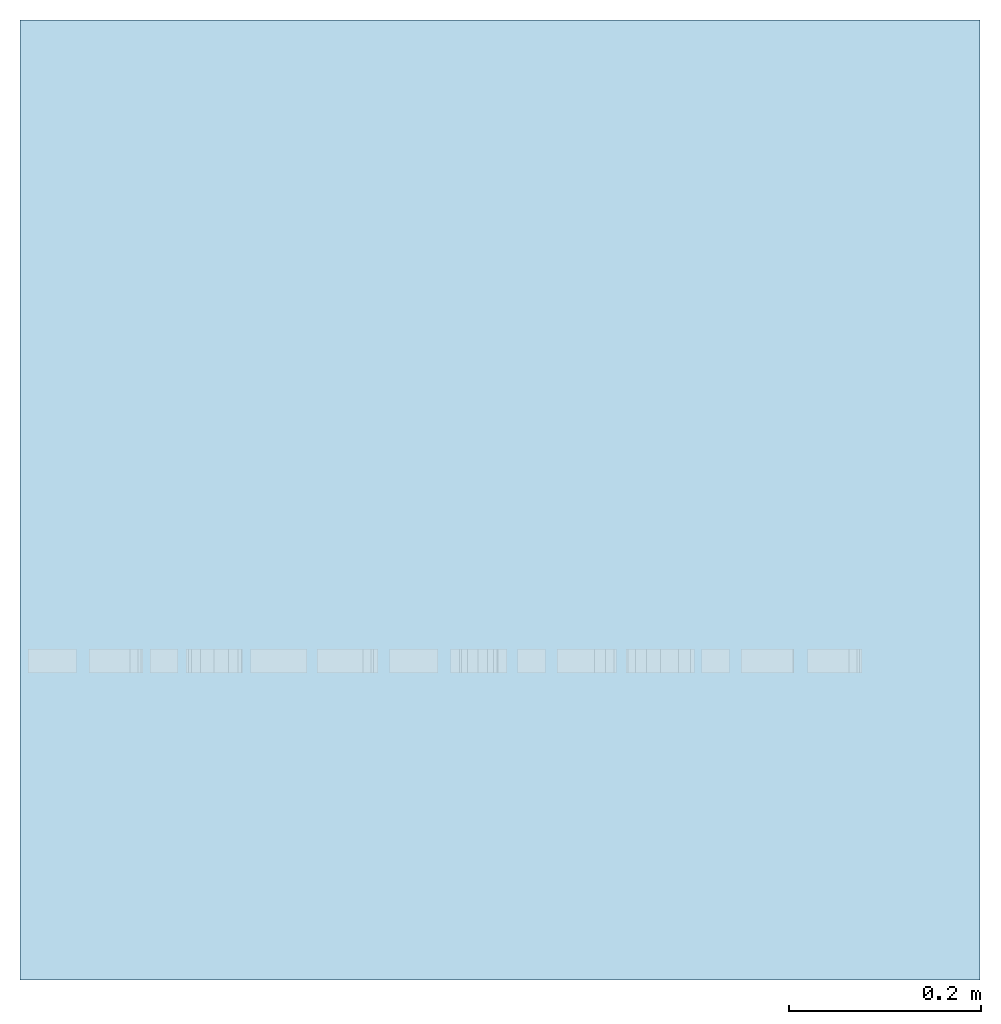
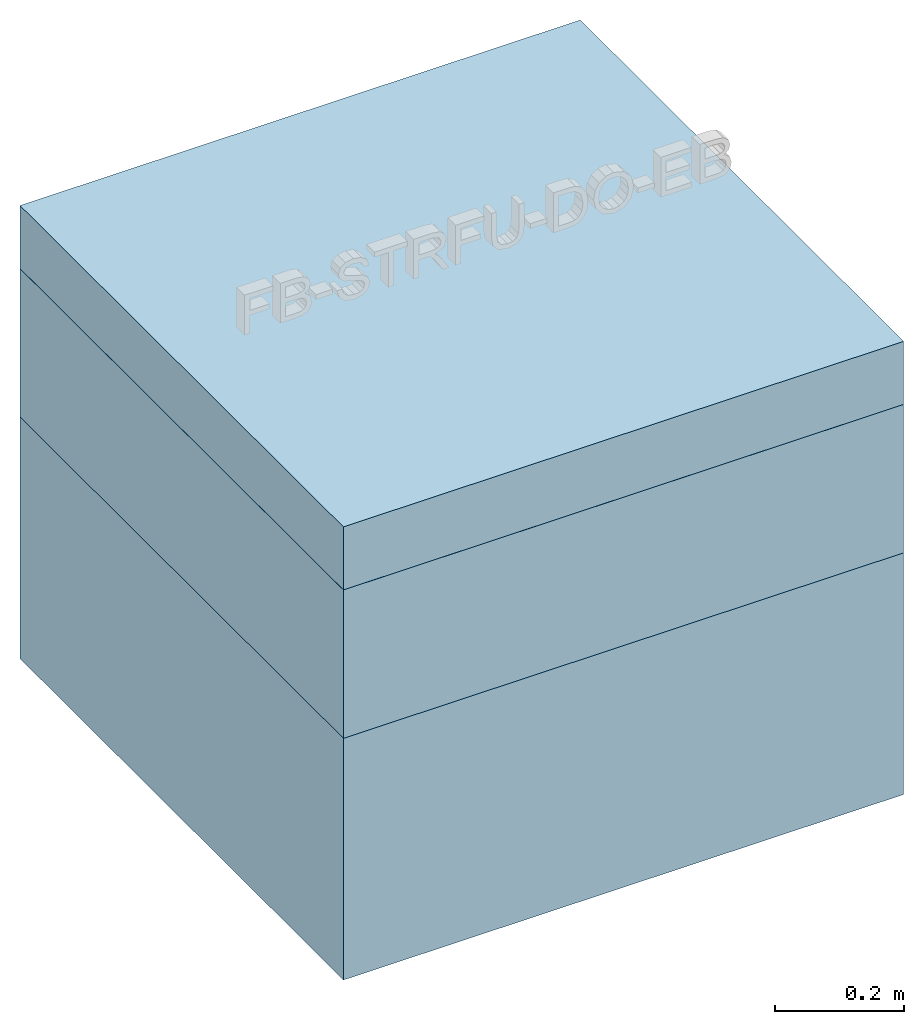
# Not in any storey, part 1 of 2: 3 slabs, 1 element without a shape of its own.
"""IFC4 model written with IfcOpenShell, lengths in metres."""

from ifc_helpers import new_model, entity, si_unit, converted_unit, derived_unit, direction, frame, origin, place, context, subcontext, project, spatial, indexed_curve, outline, extrude, material, constituent, constituent_set, type_object, element, aggregate, save


model = new_model("IFC4")

# Units and contexts
model_context = context("Model", 3, precision=1e-05, world=origin(), true_north=direction((6.123031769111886e-17, 1.0)))
body_context = subcontext(model_context, "Body", "Model", "MODEL_VIEW")
ifc_project = project(units=[si_unit("LENGTHUNIT", "METRE"), si_unit("AREAUNIT", "SQUARE_METRE"), si_unit("VOLUMEUNIT", "CUBIC_METRE"), converted_unit("PLANEANGLEUNIT", "DEGREE", entity("IfcRatioMeasure", 0.017453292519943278), si_unit("PLANEANGLEUNIT", "RADIAN"), dimensions=[0, 0, 0, 0, 0, 0, 0]), si_unit("MASSUNIT", "GRAM", prefix="KILO"), derived_unit("MASSDENSITYUNIT", [(si_unit("MASSUNIT", "GRAM", prefix="KILO"), 1), (si_unit("LENGTHUNIT", "METRE"), -3)]), derived_unit("IONCONCENTRATIONUNIT", [(si_unit("MASSUNIT", "GRAM", prefix="KILO"), 1), (si_unit("LENGTHUNIT", "METRE"), -3)]), derived_unit("MOMENTOFINERTIAUNIT", [(si_unit("LENGTHUNIT", "METRE"), 4)]), si_unit("TIMEUNIT", "SECOND"), si_unit("FREQUENCYUNIT", "HERTZ"), si_unit("THERMODYNAMICTEMPERATUREUNIT", "DEGREE_CELSIUS"), derived_unit("THERMALTRANSMITTANCEUNIT", [(si_unit("MASSUNIT", "GRAM", prefix="KILO"), 1), (si_unit("THERMODYNAMICTEMPERATUREUNIT", "KELVIN"), -1), (si_unit("TIMEUNIT", "SECOND"), -3)]), derived_unit("THERMALCONDUCTANCEUNIT", [(si_unit("MASSUNIT", "GRAM", prefix="KILO"), 1), (si_unit("THERMODYNAMICTEMPERATUREUNIT", "KELVIN"), -1), (si_unit("TIMEUNIT", "SECOND"), -3), (si_unit("LENGTHUNIT", "METRE"), 1)]), derived_unit("VOLUMETRICFLOWRATEUNIT", [(si_unit("LENGTHUNIT", "METRE"), 3), (si_unit("TIMEUNIT", "SECOND"), -1)]), derived_unit("MASSFLOWRATEUNIT", [(si_unit("MASSUNIT", "GRAM", prefix="KILO"), 1), (si_unit("TIMEUNIT", "SECOND"), -1)]), derived_unit("ROTATIONALFREQUENCYUNIT", [(si_unit("TIMEUNIT", "SECOND"), -1)]), si_unit("ELECTRICCURRENTUNIT", "AMPERE"), si_unit("ELECTRICVOLTAGEUNIT", "VOLT"), si_unit("POWERUNIT", "WATT"), si_unit("FORCEUNIT", "NEWTON", prefix="KILO"), si_unit("ILLUMINANCEUNIT", "LUX"), si_unit("LUMINOUSFLUXUNIT", "LUMEN"), si_unit("LUMINOUSINTENSITYUNIT", "CANDELA"), derived_unit("USERDEFINED", [(si_unit("MASSUNIT", "GRAM", prefix="KILO"), -1), (si_unit("LENGTHUNIT", "METRE"), -2), (si_unit("TIMEUNIT", "SECOND"), 3), (si_unit("LUMINOUSFLUXUNIT", "LUMEN"), 1)]), derived_unit("USERDEFINED", [(si_unit("MASSUNIT", "GRAM", prefix="KILO"), 1), (si_unit("TIMEUNIT", "SECOND"), -3), (si_unit("LENGTHUNIT", "METRE"), 3), (si_unit("ELECTRICCURRENTUNIT", "AMPERE"), -2)]), derived_unit("SOUNDPOWERUNIT", [(si_unit("MASSUNIT", "GRAM", prefix="KILO"), 1), (si_unit("TIMEUNIT", "SECOND"), -3), (si_unit("LENGTHUNIT", "METRE"), 2)]), derived_unit("SOUNDPRESSUREUNIT", [(si_unit("MASSUNIT", "GRAM", prefix="KILO"), 1), (si_unit("LENGTHUNIT", "METRE"), -1), (si_unit("TIMEUNIT", "SECOND"), -2)]), derived_unit("LINEARVELOCITYUNIT", [(si_unit("LENGTHUNIT", "METRE"), 1), (si_unit("TIMEUNIT", "SECOND"), -1)]), si_unit("PRESSUREUNIT", "PASCAL"), derived_unit("USERDEFINED", [(si_unit("MASSUNIT", "GRAM", prefix="KILO"), 1), (si_unit("LENGTHUNIT", "METRE"), -2), (si_unit("TIMEUNIT", "SECOND"), -2)]), derived_unit("LINEARFORCEUNIT", [(si_unit("MASSUNIT", "GRAM", prefix="KILO"), 1), (si_unit("TIMEUNIT", "SECOND"), -2)]), derived_unit("PLANARFORCEUNIT", [(si_unit("MASSUNIT", "GRAM", prefix="KILO"), 1), (si_unit("LENGTHUNIT", "METRE"), -1), (si_unit("TIMEUNIT", "SECOND"), -2)]), derived_unit("SPECIFICHEATCAPACITYUNIT", [(si_unit("THERMODYNAMICTEMPERATUREUNIT", "KELVIN"), -1), (si_unit("LENGTHUNIT", "METRE"), 2), (si_unit("TIMEUNIT", "SECOND"), -2)]), derived_unit("HEATINGVALUEUNIT", [(si_unit("LENGTHUNIT", "METRE"), 2), (si_unit("TIMEUNIT", "SECOND"), -2)]), derived_unit("VAPORPERMEABILITYUNIT", [(si_unit("LENGTHUNIT", "METRE"), -1), (si_unit("TIMEUNIT", "SECOND"), 1)]), derived_unit("DYNAMICVISCOSITYUNIT", [(si_unit("MASSUNIT", "GRAM", prefix="KILO"), 1), (si_unit("TIMEUNIT", "SECOND"), -1), (si_unit("LENGTHUNIT", "METRE"), -1)]), derived_unit("THERMALEXPANSIONCOEFFICIENTUNIT", [(si_unit("THERMODYNAMICTEMPERATUREUNIT", "KELVIN"), -1)]), derived_unit("MODULUSOFELASTICITYUNIT", [(si_unit("MASSUNIT", "GRAM", prefix="KILO"), 1), (si_unit("LENGTHUNIT", "METRE"), -1), (si_unit("TIMEUNIT", "SECOND"), -2)]), derived_unit("ISOTHERMALMOISTURECAPACITYUNIT", [(si_unit("LENGTHUNIT", "METRE"), 3), (si_unit("MASSUNIT", "GRAM", prefix="KILO"), -1)]), derived_unit("MOISTUREDIFFUSIVITYUNIT", [(si_unit("TIMEUNIT", "SECOND"), -1), (si_unit("LENGTHUNIT", "METRE"), 2)])], contexts=[model_context])

# Site
site_placement = place(None, origin())
site = spatial("IfcSite", under=ifc_project, at=site_placement, Name="Default", CompositionType="ELEMENT")

# Assembly, slabs
ifc_material_1 = material(Name="fbim_18108010_AT_015_Parkettboden")
ifc_constituent_1 = constituent(ifc_material_1, Name="fbim_18108010_AT_015_Parkettboden")
ifc_material_2 = material(Name="fbim_AT_Perlitdaemmschuettung")
ifc_constituent_2 = constituent(ifc_material_2, Name="fbim_AT_Perlitdaemmschuettung")
ifc_material_3 = material(Name="fbim_14104055_AT_040_HF-Trittschalldaemmplatte")
ifc_constituent_3 = constituent(ifc_material_3, Name="fbim_14104055_AT_040_HF-Trittschalldaemmplatte")
ifc_material_4 = material(Name="fbim_12400515_AT_025_Vollholz_Bretter_Fichte")
ifc_constituent_4 = constituent(ifc_material_4, Name="fbim_12400515_AT_025_Vollholz_Bretter_Fichte")
ifc_constituent_set_1 = constituent_set(constituents=[ifc_constituent_1, ifc_constituent_2, ifc_constituent_3, ifc_constituent_4], Name="Geschossdecke:fbimSg_Slab_sb_CNR_vis_at_NTR_natuREbuilt_FBo_GK3_o_15cm")
assembly_placement = place(site_placement, origin())
assembly = element("IfcElementAssembly", 1, at=assembly_placement, inside=site, material=ifc_constituent_set_1, Name="Geschossdecken Baugruppe:fbimSg_Footing_bc_WOD_vis_at_NTR_natuREbuilt_FB-STRFU-DO-EB_GK3_86cm", ObjectType="Geschossdecken Baugruppe:fbimSg_Footing_bc_WOD_vis_at_NTR_natuREbuilt_FB-STRFU-DO-EB_GK3_86cm", AssemblyPlace="NOTDEFINED", PredefinedType="USERDEFINED")
slab_type_1 = type_object("IfcSlabType", Name="Geschossdecke:fbimSg_Slab_sb_CNR_vis_at_NTR_natuREbuilt_FBo_GK3_o_15cm", PredefinedType="FLOOR", material=ifc_constituent_set_1)
slab_1_placement = place(assembly_placement, origin())
slab_1 = element("IfcSlab", 2, at=slab_1_placement, type_object=slab_type_1, Name="Geschossdecke:fbimSg_Slab_sb_CNR_vis_at_NTR_natuREbuilt_FBo_GK3_o_15cm", ObjectType="Geschossdecke:fbimSg_Slab_sb_CNR_vis_at_NTR_natuREbuilt_FBo_GK3_o_15cm", PredefinedType="FLOOR", context=body_context, shape_type="SweptSolid", body=[
    extrude(outline(indexed_curve([(-0.4999999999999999, -0.49999999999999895), (0.5, -0.49999999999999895), (0.5, 0.49999999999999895), (-0.5, 0.49999999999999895), (-0.4999999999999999, -0.49999999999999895)], self_intersect=False)), frame((-1.5896396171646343, 43.0146922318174, 1.9179068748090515), z_axis=(0.0, 0.0, 1.0), x_axis=(-1.0, 0.0, 0.0)), (0.0, 0.0, 1.0), 0.015000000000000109),
    extrude(outline(indexed_curve([(-0.4999999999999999, -0.49999999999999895), (0.5, -0.49999999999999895), (0.4999999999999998, 0.49999999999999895), (-0.5, 0.49999999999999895), (-0.4999999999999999, -0.49999999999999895)], self_intersect=False)), frame((-1.5896396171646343, 43.0146922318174, 1.8579068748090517), z_axis=(0.0, 0.0, 1.0), x_axis=(-1.0, 0.0, 0.0)), (0.0, 0.0, 1.0), 0.059999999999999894),
    extrude(outline(indexed_curve([(-0.4999999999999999, -0.49999999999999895), (0.5, -0.49999999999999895), (0.5, 0.49999999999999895), (-0.5, 0.49999999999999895), (-0.4999999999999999, -0.49999999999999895)], self_intersect=False)), frame((-1.5896396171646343, 43.0146922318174, 1.8379068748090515), z_axis=(0.0, 0.0, 1.0), x_axis=(-1.0, 0.0, 0.0)), (0.0, 0.0, 1.0), 0.020000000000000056),
    extrude(outline(indexed_curve([(-0.4999999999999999, -0.49999999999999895), (0.5, -0.49999999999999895), (0.5, 0.49999999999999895), (-0.5, 0.49999999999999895), (-0.4999999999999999, -0.49999999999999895)], self_intersect=False)), frame((-1.5896396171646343, 43.0146922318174, 1.8139068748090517), z_axis=(0.0, 0.0, 1.0), x_axis=(-1.0, 0.0, 0.0)), (0.0, 0.0, 1.0), 0.02399999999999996),
])
ifc_material_5 = material(Name="fbim_14100500_at_NTR_Zellulose-Einblasdaemmung")
slab_type_2 = type_object("IfcSlabType", Name="Geschossdecke:fbimSg_Slab_sb_INS_vis_at_NTR_natuREbuilt_FBo_GK3_k_28cm", PredefinedType="FLOOR", material=ifc_material_5)
slab_2_placement = place(assembly_placement, origin())
slab_2 = element("IfcSlab", 3, at=slab_2_placement, type_object=slab_type_2, material=ifc_material_5, Name="Geschossdecke:fbimSg_Slab_sb_INS_vis_at_NTR_natuREbuilt_FBo_GK3_k_28cm", ObjectType="Geschossdecke:fbimSg_Slab_sb_INS_vis_at_NTR_natuREbuilt_FBo_GK3_k_28cm", PredefinedType="FLOOR", context=body_context, shape_type="SweptSolid", body=[
    extrude(outline(indexed_curve([(-0.49999999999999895, -0.5), (0.49999999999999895, -0.5), (0.49999999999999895, 0.4999999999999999), (-0.49999999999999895, 0.5), (-0.49999999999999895, -0.5)], self_intersect=False)), frame((-1.5896396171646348, 43.0146922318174, 1.8139068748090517), z_axis=(0.0, 0.0, -1.0), x_axis=(0.0, 1.0, 0.0)), (0.0, 0.0, 1.0), 0.27999999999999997),
])
ifc_material_6 = material(Name="fbim_14052005_AT_EPDM_Abdichtungsbahn")
ifc_constituent_5 = constituent(ifc_material_6, Name="fbim_14052005_AT_EPDM_Abdichtungsbahn")
ifc_material_7 = material(Name="fbim_12050505_AT_025_Stahlbeton_C25_30_GK32")
ifc_constituent_6 = constituent(ifc_material_7, Name="fbim_12050505_AT_025_Stahlbeton_C25_30_GK32")
ifc_material_8 = material(Name="fbim_10051510_AT_020_Frostkoffer")
ifc_constituent_7 = constituent(ifc_material_8, Name="fbim_10051510_AT_020_Frostkoffer")
ifc_constituent_set_2 = constituent_set(constituents=[ifc_constituent_5, ifc_constituent_6, ifc_constituent_7], Name="Geschossdecke:fbimSg_Floor_dp_INS_vis_at_NTR_natuREbuilt_FBo_GK3_u_12cm")
slab_type_3 = type_object("IfcSlabType", Name="Geschossdecke:fbimSg_Floor_dp_INS_vis_at_NTR_natuREbuilt_FBo_GK3_u_12cm", PredefinedType="FLOOR", material=ifc_constituent_set_2)
slab_3_placement = place(assembly_placement, origin())
slab_3 = element("IfcSlab", 4, at=slab_3_placement, type_object=slab_type_3, material=ifc_constituent_set_2, Name="Geschossdecke:fbimSg_Floor_dp_INS_vis_at_NTR_natuREbuilt_FBo_GK3_u_12cm", ObjectType="Geschossdecke:fbimSg_Floor_dp_INS_vis_at_NTR_natuREbuilt_FBo_GK3_u_12cm", PredefinedType="FLOOR", context=body_context, shape_type="SweptSolid", body=[
    extrude(outline(indexed_curve([(-0.4999999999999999, -0.49999999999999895), (0.5, -0.49999999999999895), (0.5, 0.49999999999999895), (-0.5, 0.49999999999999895), (-0.4999999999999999, -0.49999999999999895)], self_intersect=False)), frame((-1.589639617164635, 43.0146922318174, 1.5279068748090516), z_axis=(0.0, 0.0, 1.0), x_axis=(-1.0, 0.0, 0.0)), (0.0, 0.0, 1.0), 0.00599999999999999),
    extrude(outline(indexed_curve([(-0.4999999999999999, -0.49999999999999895), (0.5, -0.49999999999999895), (0.5000000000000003, 0.49999999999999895), (-0.5, 0.49999999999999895), (-0.4999999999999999, -0.49999999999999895)], self_intersect=False)), frame((-1.589639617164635, 43.0146922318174, 1.3779068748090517), z_axis=(0.0, 0.0, 1.0), x_axis=(-1.0, 0.0, 0.0)), (0.0, 0.0, 1.0), 0.15000000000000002),
    extrude(outline(indexed_curve([(-0.4999999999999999, -0.49999999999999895), (0.5, -0.49999999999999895), (0.5, 0.49999999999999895), (-0.5, 0.49999999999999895), (-0.4999999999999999, -0.49999999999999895)], self_intersect=False)), frame((-1.589639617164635, 43.0146922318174, 1.0779068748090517), z_axis=(0.0, 0.0, 1.0), x_axis=(-1.0, 0.0, 0.0)), (0.0, 0.0, 1.0), 0.30000000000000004),
])
aggregate(assembly, [slab_1, slab_2, slab_3])

save(model, "model.ifc")
